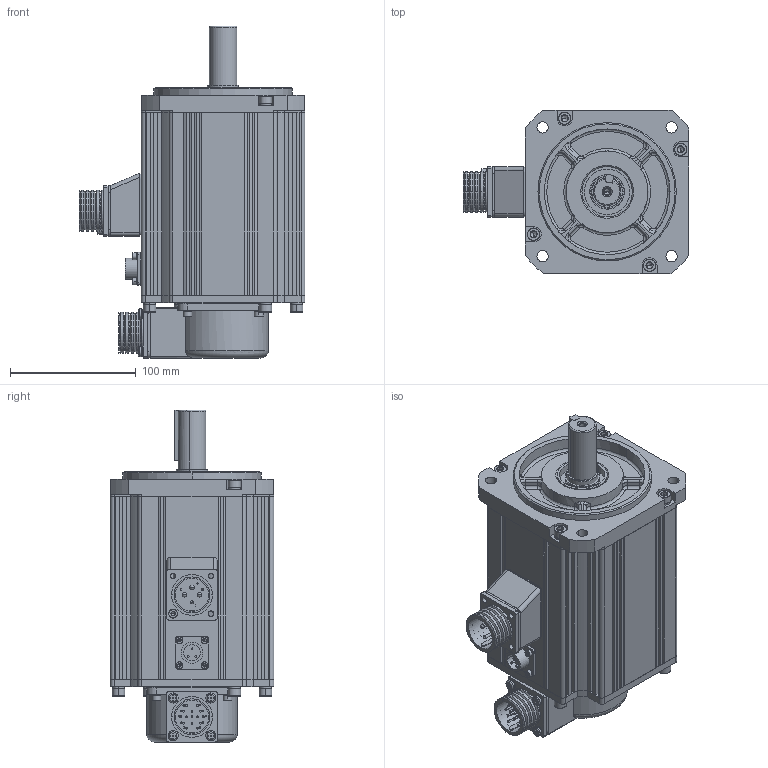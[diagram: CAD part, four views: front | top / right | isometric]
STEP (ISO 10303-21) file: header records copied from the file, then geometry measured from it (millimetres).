
FILE_DESCRIPTION((''),'2;1');
FILE_NAME('SV-MH13-0R8B-X-XA4-1000_ASM_ASM','2019-12-11T',('JWDQ'),(''),'CREO PARAMETRIC BY PTC INC, 2014050','CREO PARAMETRIC BY PTC INC, 2014050','');
FILE_SCHEMA(('CONFIG_CONTROL_DESIGN'));
Products named in the file (35): SV130BZ-ZHOU_1_AF0; SV130BZ-ZZ-1_ASM_1_AF0_ASM; SV130BZ-ZZ-2_ASM_1_AF0_ASM; 80100020-1_1; SV130BZ-HG_ASM_1_ASM; SV130BZ-ZHUANZ_ASM_1_AF0_ASM; SV130BZ-K_1; 513704090100_1_1; 046770000100_1_1; 80750004_1_1; 78400020_1_1; GBT93-4_1_1; GBT7R1-4X35_1_1; S-YD28-4_ASM_1_1_ASM; SV130BZ-DZ-1_ASM_1_ASM; SV130BZ-DINGZ_ASM_1_ASM; 80100007_1_1; 730030000200_1_1; SV130-QG_ASM_1_1_ASM; 82340004_1_1; 046770000100_1; 513715090100_1_1; 78400019_1_1; GBT93-4_1; GBT70R1-4X12_1_1; M4X16_1_1; TS5214_ASM_1_1_ASM; GBT93-6_1_1; GBT7R1-M6X16_1_1; GBT1095-6X6-41_1; XS16-3P_1; GB93-3_1; GBT7R1-3X8_1; SV130-BZ_ASM_2_AF0_ASM; SV-MH13-0R8B-X-XA4-1000_ASM_ASM
Assembly tree (67 placements, depth 6):
  SV-MH13-0R8B-X-XA4-1000_ASM_ASM
    SV130-BZ_ASM_2_AF0_ASM
      SV130BZ-ZHUANZ_ASM_1_AF0_ASM
        SV130BZ-ZZ-2_ASM_1_AF0_ASM
          SV130BZ-ZZ-1_ASM_1_AF0_ASM
            SV130BZ-ZHOU_1_AF0
        SV130BZ-HG_ASM_1_ASM
          80100020-1_1
      SV130BZ-DINGZ_ASM_1_ASM
        SV130BZ-DZ-1_ASM_1_ASM
          SV130BZ-K_1
          S-YD28-4_ASM_1_1_ASM
            513704090100_1_1
            046770000100_1_1
            80750004_1_1
            78400020_1_1
            GBT93-4_1_1
            GBT7R1-4X35_1_1
      SV130-QG_ASM_1_1_ASM
        80100007_1_1
        730030000200_1_1
      TS5214_ASM_1_1_ASM
        82340004_1_1
        046770000100_1
        513715090100_1_1
        78400019_1_1
        GBT93-4_1  x8
        GBT70R1-4X12_1_1  x4
        M4X16_1_1  x4
      GBT93-6_1_1  x8
      GBT7R1-M6X16_1_1  x8
      GBT1095-6X6-41_1
      XS16-3P_1
      GB93-3_1  x4
      GBT7R1-3X8_1  x4
Bounding box: 179.5 x 130 x 264 mm (x, y, z)
Volume: 995379.3 mm3; surface area: 403993 mm2
Topology: 57 solids, 75 shells, 3304 faces, 8611 edges, 5583 vertices
Faces by surface type: plane 1925, cylinder 828, cone 394, torus 100, bspline 31, sphere 26
Entity records: 104570 total; most frequent: CARTESIAN_POINT 17086, DIRECTION 14686, ORIENTED_EDGE 14306, EDGE_CURVE 7163, AXIS2_PLACEMENT_3D 4923, VECTOR 4840, LINE 4840, VERTEX_POINT 4747
